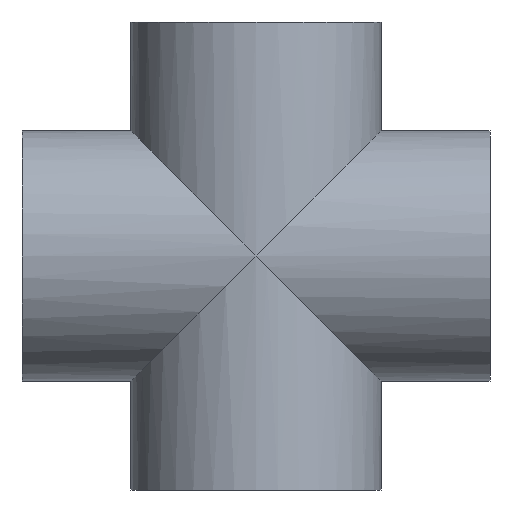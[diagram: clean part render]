
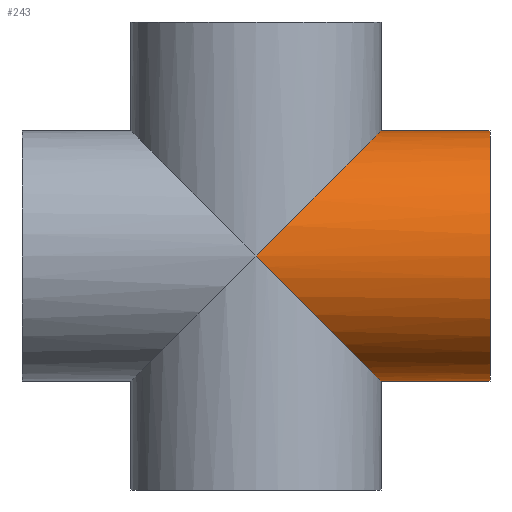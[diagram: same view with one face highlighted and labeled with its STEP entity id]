
A CAD part, left-side view. The second image highlights one B-rep face of the part: STEP entity #243.
In plain terms, the highlighted cylindrical face has radius 30.5 mm (diameter 61 mm), a full revolution.
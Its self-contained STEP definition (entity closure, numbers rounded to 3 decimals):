
#19=ELLIPSE('',#282,43.134,30.5);
#20=ELLIPSE('',#283,43.134,30.5);
#43=FACE_BOUND('',#96,.T.);
#63=FACE_OUTER_BOUND('',#95,.T.);
#95=EDGE_LOOP('',(#199,#200));
#96=EDGE_LOOP('',(#201));
#123=CIRCLE('',#284,30.5);
#141=VERTEX_POINT('',#431);
#142=VERTEX_POINT('',#432);
#143=VERTEX_POINT('',#435);
#163=EDGE_CURVE('',#141,#142,#19,.T.);
#164=EDGE_CURVE('',#142,#141,#20,.T.);
#165=EDGE_CURVE('',#143,#143,#123,.T.);
#199=ORIENTED_EDGE('',*,*,#163,.F.);
#200=ORIENTED_EDGE('',*,*,#164,.F.);
#201=ORIENTED_EDGE('',*,*,#165,.F.);
#227=CYLINDRICAL_SURFACE('',#281,30.5);
#243=ADVANCED_FACE('',(#63,#43),#227,.T.);
#281=AXIS2_PLACEMENT_3D('',#430,#355,#356);
#282=AXIS2_PLACEMENT_3D('',#433,#357,#358);
#283=AXIS2_PLACEMENT_3D('',#434,#359,#360);
#284=AXIS2_PLACEMENT_3D('',#436,#361,#362);
#355=DIRECTION('center_axis',(0.,1.,0.));
#356=DIRECTION('ref_axis',(1.,0.,0.));
#357=DIRECTION('center_axis',(0.,0.707,-0.707));
#358=DIRECTION('ref_axis',(0.,-0.707,-0.707));
#359=DIRECTION('center_axis',(0.,0.707,0.707));
#360=DIRECTION('ref_axis',(0.,0.707,-0.707));
#361=DIRECTION('center_axis',(0.,-1.,0.));
#362=DIRECTION('ref_axis',(1.,0.,0.));
#430=CARTESIAN_POINT('Origin',(0.,0.,0.));
#431=CARTESIAN_POINT('',(30.5,0.,0.));
#432=CARTESIAN_POINT('',(-30.5,0.,0.));
#433=CARTESIAN_POINT('Origin',(0.,0.,0.));
#434=CARTESIAN_POINT('Origin',(0.,0.,0.));
#435=CARTESIAN_POINT('',(-30.5,-57.,0.));
#436=CARTESIAN_POINT('Origin',(0.,-57.,0.));
